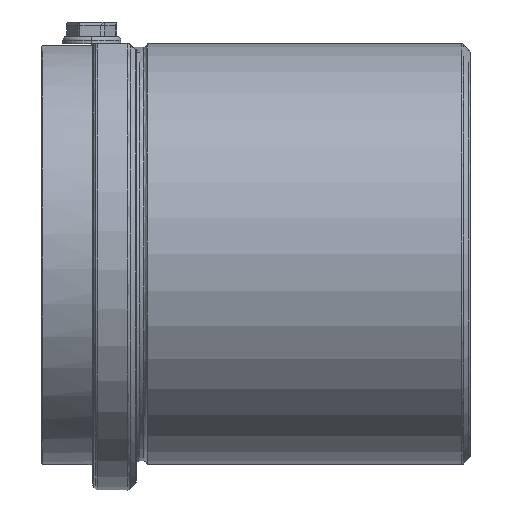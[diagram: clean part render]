
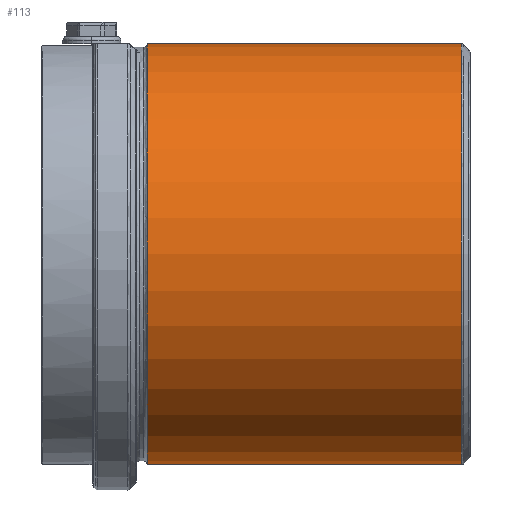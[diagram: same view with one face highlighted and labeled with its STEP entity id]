
A CAD part, left-side view. The second image highlights one B-rep face of the part: STEP entity #113.
In plain terms, the highlighted face is a revolution surface.
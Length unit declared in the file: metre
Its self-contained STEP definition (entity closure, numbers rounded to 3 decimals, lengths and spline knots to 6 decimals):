
#113 = ADVANCED_FACE( '', ( #283 ), #284, .F. );
#283 = FACE_OUTER_BOUND( '', #1104, .T. );
#284 = SURFACE_OF_REVOLUTION( '', #1105, #1106 );
#1104 = EDGE_LOOP( '', ( #2850, #2851, #2852, #2853 ) );
#1105 = B_SPLINE_CURVE_WITH_KNOTS( '', 1, ( #2854, #2855 ), .UNSPECIFIED., .F., .F., ( 2, 2 ), ( -10000., 10000. ), .UNSPECIFIED. );
#1106 = AXIS1_PLACEMENT( '', #2856, #2857 );
#2850 = ORIENTED_EDGE( '', *, *, #3604, .F. );
#2851 = ORIENTED_EDGE( '', *, *, #3605, .F. );
#2852 = ORIENTED_EDGE( '', *, *, #3599, .F. );
#2853 = ORIENTED_EDGE( '', *, *, #3606, .F. );
#2854 = CARTESIAN_POINT( '', ( 0., 10000.0445, -0.029 ) );
#2855 = CARTESIAN_POINT( '', ( 0., -9999.9555, -0.029 ) );
#2856 = CARTESIAN_POINT( '', ( 0., 0.0445, 0. ) );
#2857 = DIRECTION( '', ( 0., 1., 0. ) );
#3599 = EDGE_CURVE( '', #3995, #3993, #3997, .T. );
#3604 = EDGE_CURVE( '', #4003, #4004, #4005, .F. );
#3605 = EDGE_CURVE( '', #3993, #4003, #4006, .F. );
#3606 = EDGE_CURVE( '', #4004, #3995, #4007, .T. );
#3993 = VERTEX_POINT( '', #5606 );
#3995 = VERTEX_POINT( '', #5618 );
#3997 = CIRCLE( '', #5630, 0.029 );
#4003 = VERTEX_POINT( '', #5637 );
#4004 = VERTEX_POINT( '', #5638 );
#4005 = CIRCLE( '', #5639, 0.029 );
#4006 = LINE( '', #5640, #5641 );
#4007 = LINE( '', #5642, #5643 );
#5606 = CARTESIAN_POINT( '', ( 0., 0.001207, -0.029 ) );
#5618 = CARTESIAN_POINT( '', ( 0., 0.001207, 0.029 ) );
#5630 = AXIS2_PLACEMENT_3D( '', #6638, #6639, #6640 );
#5637 = CARTESIAN_POINT( '', ( 0., 0.0445, -0.029 ) );
#5638 = CARTESIAN_POINT( '', ( 0., 0.0445, 0.029 ) );
#5639 = AXIS2_PLACEMENT_3D( '', #6651, #6652, #6653 );
#5640 = CARTESIAN_POINT( '', ( 0., 0.0445, -0.029 ) );
#5641 = VECTOR( '', #6654, 1. );
#5642 = CARTESIAN_POINT( '', ( 0., 0.0445, 0.029 ) );
#5643 = VECTOR( '', #6655, 1. );
#6638 = CARTESIAN_POINT( '', ( 0., 0.001207, 0. ) );
#6639 = DIRECTION( '', ( 0., -1., 0. ) );
#6640 = DIRECTION( '', ( 0., 0., -1. ) );
#6651 = CARTESIAN_POINT( '', ( 0., 0.0445, 0. ) );
#6652 = DIRECTION( '', ( 0., -1., 0. ) );
#6653 = DIRECTION( '', ( 0., 0., -1. ) );
#6654 = DIRECTION( '', ( 0., -1., 0. ) );
#6655 = DIRECTION( '', ( 0., -1., 0. ) );
